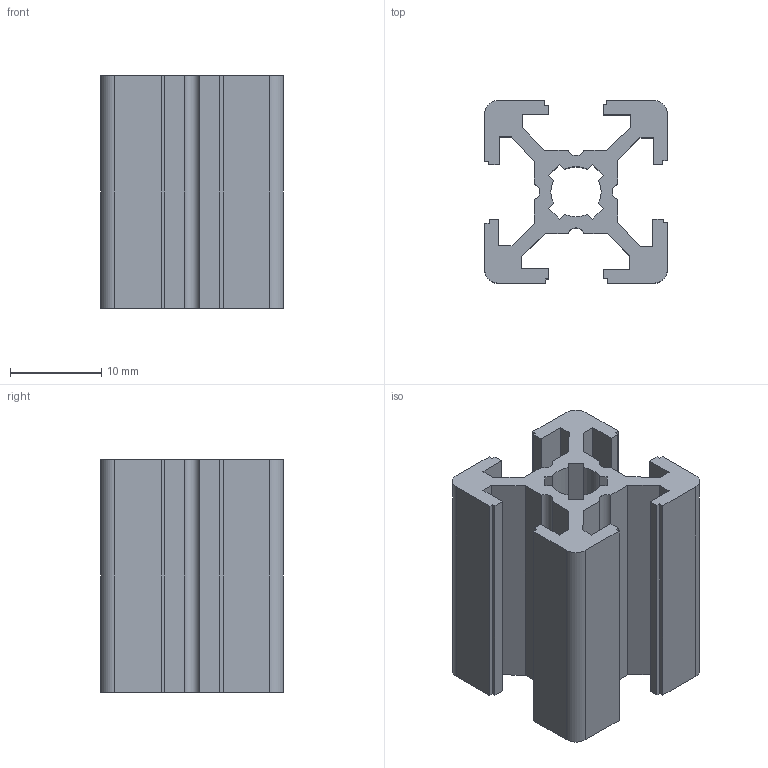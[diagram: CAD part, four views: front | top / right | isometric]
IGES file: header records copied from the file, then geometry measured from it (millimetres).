
Global section: file name: C:\Documents and Settings\Administrator\Desktop\Transfer Temp\bosch2020.igs; native system: AutoDesk Inventor R2.0 ; preprocessor: AutoDesk Inventor Iges Exporter R2.0; author: No Author specified; organization: No Organization specified; date: 20020117.162657; units: millimetre
Bounding box: 20 x 20 x 25.4 mm (x, y, z)
Surface area: 4958.4 mm2 (no closed solid volume)
Topology: 0 solids, 0 shells, 90 faces, 528 edges, 528 vertices
Faces by surface type: bspline 78, revolution 12
